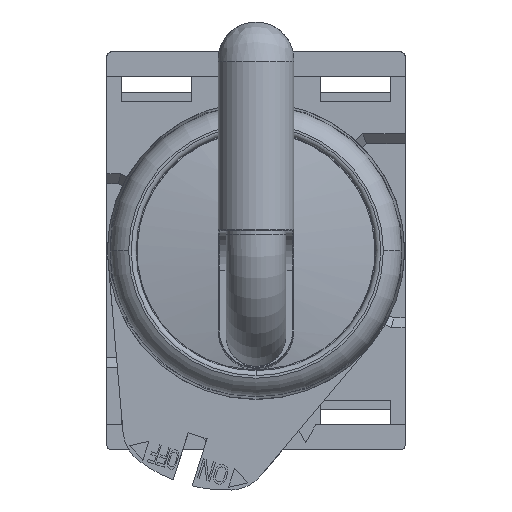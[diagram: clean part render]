
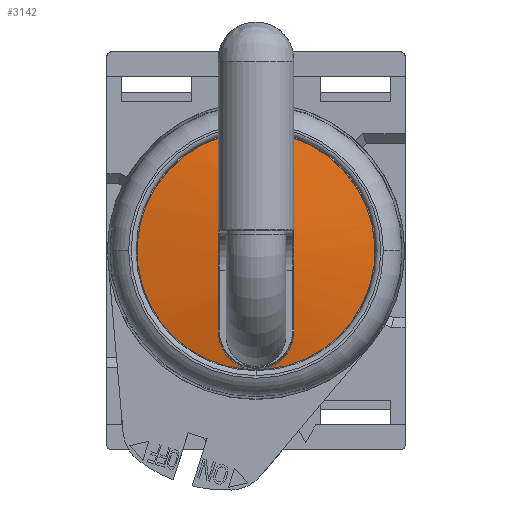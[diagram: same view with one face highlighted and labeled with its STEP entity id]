
A CAD part, front view. The second image highlights one B-rep face of the part: STEP entity #3142.
In plain terms, the highlighted spherical face has radius 55 mm.
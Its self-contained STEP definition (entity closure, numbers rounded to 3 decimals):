
#360=SPHERICAL_SURFACE('',#47740,55.);
#3142=ADVANCED_FACE('',(#7345),#360,.T.);
#7345=FACE_OUTER_BOUND('',#9758,.T.);
#9758=EDGE_LOOP('',(#24470,#24471,#24472,#24473));
#10618=B_SPLINE_CURVE_WITH_KNOTS('',3,(#83439,#83440,#83441,#83442,#83443,
#83444,#83445,#83446,#83447,#83448,#83449,#83450,#83451,#83452,#83453,#83454,
#83455,#83456,#83457,#83458,#83459,#83460,#83461,#83462,#83463,#83464,#83465,
#83466,#83467,#83468,#83469),.UNSPECIFIED.,.F.,.F.,(4,3,3,3,3,3,3,3,3,3,
4),(0.,0.112,0.225,0.334,0.44,
0.544,0.647,0.751,0.856,
0.964,1.),.UNSPECIFIED.);
#11491=CIRCLE('',#47624,54.869);
#11501=CIRCLE('',#47635,11.95);
#11559=CIRCLE('',#47735,54.869);
#24470=ORIENTED_EDGE('',*,*,#35039,.T.);
#24471=ORIENTED_EDGE('',*,*,#35189,.T.);
#24472=ORIENTED_EDGE('',*,*,#35181,.F.);
#24473=ORIENTED_EDGE('',*,*,#35015,.F.);
#28595=VERTEX_POINT('',#82357);
#28596=VERTEX_POINT('',#82358);
#28619=VERTEX_POINT('',#82420);
#28713=VERTEX_POINT('',#83470);
#35015=EDGE_CURVE('',#28595,#28596,#11491,.T.);
#35039=EDGE_CURVE('',#28595,#28619,#11501,.T.);
#35181=EDGE_CURVE('',#28596,#28713,#10618,.T.);
#35189=EDGE_CURVE('',#28619,#28713,#11559,.T.);
#47624=AXIS2_PLACEMENT_3D('',#82356,#58660,#58661);
#47635=AXIS2_PLACEMENT_3D('',#82421,#58694,#58695);
#47735=AXIS2_PLACEMENT_3D('',#83484,#58956,#58957);
#47740=AXIS2_PLACEMENT_3D('',#83675,#58967,#58968);
#58660=DIRECTION('',(1.,0.,0.));
#58661=DIRECTION('',(0.,-0.978,0.206));
#58694=DIRECTION('',(0.,-1.,0.));
#58695=DIRECTION('',(-0.318,0.,0.948));
#58956=DIRECTION('',(1.,0.,0.));
#58957=DIRECTION('',(0.,-0.978,0.206));
#58967=DIRECTION('',(0.,-1.,0.));
#58968=DIRECTION('',(0.,0.,-1.));
#82356=CARTESIAN_POINT('',(-3.8,51.336,0.));
#82357=CARTESIAN_POINT('',(-3.8,-2.35,11.33));
#82358=CARTESIAN_POINT('',(-3.8,-2.937,-8.058));
#82420=CARTESIAN_POINT('',(3.8,-2.35,11.33));
#82421=CARTESIAN_POINT('',(0.,-2.35,0.));
#83439=CARTESIAN_POINT('',(-3.8,-2.937,-8.058));
#83440=CARTESIAN_POINT('',(-3.8,-2.871,-8.506));
#83441=CARTESIAN_POINT('',(-3.724,-2.803,-8.959));
#83442=CARTESIAN_POINT('',(-3.576,-2.74,-9.382));
#83443=CARTESIAN_POINT('',(-3.427,-2.676,-9.804));
#83444=CARTESIAN_POINT('',(-3.201,-2.615,-10.208));
#83445=CARTESIAN_POINT('',(-2.916,-2.563,-10.555));
#83446=CARTESIAN_POINT('',(-2.638,-2.512,-10.893));
#83447=CARTESIAN_POINT('',(-2.297,-2.467,-11.187));
#83448=CARTESIAN_POINT('',(-1.919,-2.433,-11.411));
#83449=CARTESIAN_POINT('',(-1.553,-2.4,-11.628));
#83450=CARTESIAN_POINT('',(-1.144,-2.376,-11.785));
#83451=CARTESIAN_POINT('',(-0.725,-2.363,-11.868));
#83452=CARTESIAN_POINT('',(-0.315,-2.351,-11.949));
#83453=CARTESIAN_POINT('',(0.116,-2.349,-11.96));
#83454=CARTESIAN_POINT('',(0.53,-2.358,-11.901));
#83455=CARTESIAN_POINT('',(0.942,-2.367,-11.842));
#83456=CARTESIAN_POINT('',(1.348,-2.387,-11.712));
#83457=CARTESIAN_POINT('',(1.717,-2.416,-11.523));
#83458=CARTESIAN_POINT('',(2.088,-2.445,-11.333));
#83459=CARTESIAN_POINT('',(2.43,-2.484,-11.077));
#83460=CARTESIAN_POINT('',(2.718,-2.529,-10.778));
#83461=CARTESIAN_POINT('',(3.01,-2.575,-10.474));
#83462=CARTESIAN_POINT('',(3.254,-2.629,-10.117));
#83463=CARTESIAN_POINT('',(3.431,-2.686,-9.736));
#83464=CARTESIAN_POINT('',(3.613,-2.745,-9.345));
#83465=CARTESIAN_POINT('',(3.731,-2.809,-8.919));
#83466=CARTESIAN_POINT('',(3.777,-2.873,-8.49));
#83467=CARTESIAN_POINT('',(3.792,-2.895,-8.347));
#83468=CARTESIAN_POINT('',(3.8,-2.916,-8.203));
#83469=CARTESIAN_POINT('',(3.8,-2.937,-8.058));
#83470=CARTESIAN_POINT('',(3.8,-2.937,-8.058));
#83484=CARTESIAN_POINT('',(3.8,51.336,0.));
#83675=CARTESIAN_POINT('',(0.,51.336,0.));
